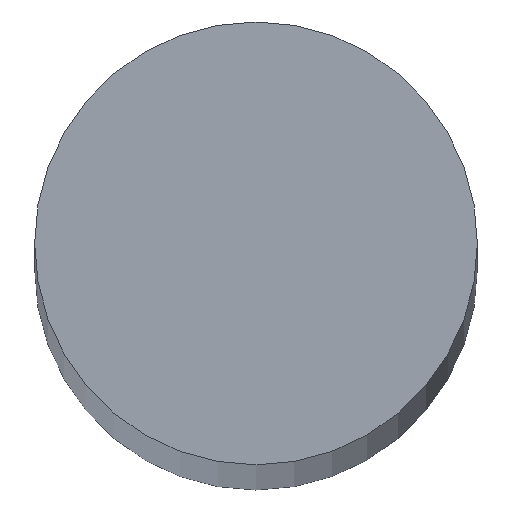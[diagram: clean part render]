
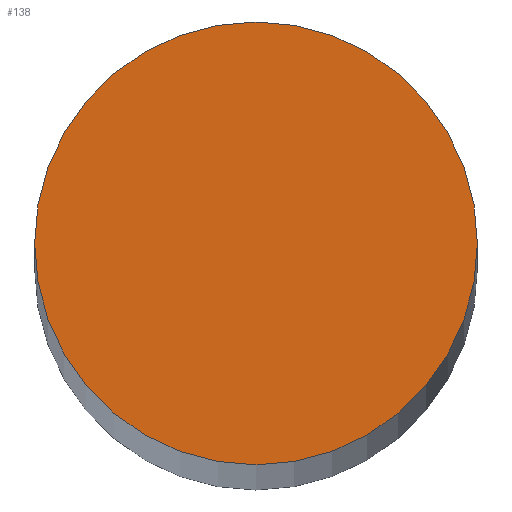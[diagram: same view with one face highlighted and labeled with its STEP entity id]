
A CAD part, top view. The second image highlights one B-rep face of the part: STEP entity #138.
In plain terms, the highlighted planar face has unit normal (0, 0, 1).
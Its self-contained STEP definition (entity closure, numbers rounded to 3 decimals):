
#3 = EDGE_LOOP ( 'NONE', ( #15, #16 ) ) ;
#15 = ORIENTED_EDGE ( 'NONE', *, *, #132, .T. ) ;
#16 = ORIENTED_EDGE ( 'NONE', *, *, #128, .T. ) ;
#29 = CIRCLE ( 'NONE', #115, 6. ) ;
#31 = CIRCLE ( 'NONE', #131, 6. ) ;
#34 = FACE_OUTER_BOUND ( 'NONE', #3, .T. ) ;
#49 = CARTESIAN_POINT ( 'NONE',  ( -6., 0., 195.5 ) ) ;
#52 = VERTEX_POINT ( 'NONE', #49 ) ;
#53 = CARTESIAN_POINT ( 'NONE',  ( 6., 0., 195.5 ) ) ;
#54 = VERTEX_POINT ( 'NONE', #53 ) ;
#68 = CARTESIAN_POINT ( 'NONE',  ( 0., 0., 195.5 ) ) ;
#71 = DIRECTION ( 'NONE',  ( 0., 0., 1. ) ) ;
#72 = DIRECTION ( 'NONE',  ( 1., 0., 0. ) ) ;
#73 = CARTESIAN_POINT ( 'NONE',  ( 0., 0., 195.5 ) ) ;
#75 = DIRECTION ( 'NONE',  ( 0., 0., 1. ) ) ;
#76 = DIRECTION ( 'NONE',  ( 1., 0., 0. ) ) ;
#88 = CARTESIAN_POINT ( 'NONE',  ( 0., 0., 195.5 ) ) ;
#89 = PLANE ( 'NONE',  #126 ) ;
#91 = DIRECTION ( 'NONE',  ( 0., 0., 1. ) ) ;
#92 = DIRECTION ( 'NONE',  ( 1., 0., 0. ) ) ;
#115 = AXIS2_PLACEMENT_3D ( 'NONE', #68, #71, #72 ) ;
#126 = AXIS2_PLACEMENT_3D ( 'NONE', #88, #91, #92 ) ;
#128 = EDGE_CURVE ( 'NONE', #54, #52, #29, .T. ) ;
#131 = AXIS2_PLACEMENT_3D ( 'NONE', #73, #75, #76 ) ;
#132 = EDGE_CURVE ( 'NONE', #52, #54, #31, .T. ) ;
#138 = ADVANCED_FACE ( 'NONE', ( #34 ), #89, .T. ) ;
